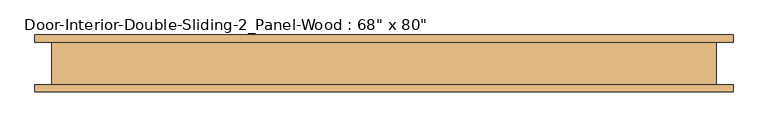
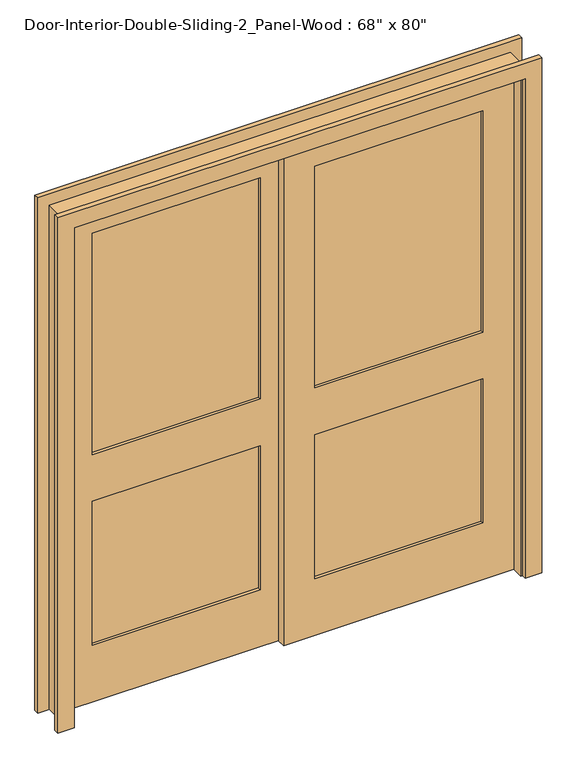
"""IFC4 building model written with IfcOpenShell, lengths in millimetres: door geometry."""

import ifcopenshell
import ifcopenshell.guid

model = None  # the IFC model being written
_history = None  # IfcOwnerHistory: only IFC2X3 demands one
_inside = {}  # id of a spatial element -> (the spatial element, [elements in it])
_under = {}  # id of a project, library or spatial element -> (it, [spatial elements below it])
_declared = {}  # id of a project -> (the project, [libraries it declares])
_typed = {}  # id of a type object -> (the type object, [elements of that type])
_made_of = {}  # id of a material, layer set ... -> (it, [elements and type objects made of it])


def new_model(schema):
    """Start an empty IFC model of exactly this schema.

    Asked for "IFC4X3", IfcOpenShell would pick the latest addendum, in which some entities
    have other attributes; the version numbers below select the first issue.
    IFC2X3 requires an IfcOwnerHistory on every rooted entity: one is made here for all.
    """
    global model, _history
    if schema == "IFC4X3":
        model = ifcopenshell.file(schema_version=(4, 3, 0, 0))
    else:
        model = ifcopenshell.file(schema=schema)
    _inside.clear()
    _under.clear()
    _declared.clear()
    _typed.clear()
    _made_of.clear()
    _history = None
    if model.schema == "IFC2X3":
        org = make("IfcOrganization", Name="unknown")
        user = make(
            "IfcPersonAndOrganization",
            ThePerson=make("IfcPerson", FamilyName="unknown"),
            TheOrganization=org,
        )
        app = make(
            "IfcApplication",
            ApplicationDeveloper=org,
            Version="unknown",
            ApplicationFullName="unknown",
            ApplicationIdentifier="unknown",
        )
        _history = make(
            "IfcOwnerHistory",
            OwningUser=user,
            OwningApplication=app,
            ChangeAction="ADDED",
            CreationDate=0,
        )
    return model


def make(cls, **values):
    """One entity of the class cls with the attributes given. An attribute that is None is left unset."""
    return model.create_entity(
        cls, **{name: value for name, value in values.items() if value is not None}
    )


def rooted(cls, **values):
    """An entity with a GlobalId (a new one), such as an element, a storey or a relation."""
    return make(cls, GlobalId=ifcopenshell.guid.new(), OwnerHistory=_history, **values)


def si_unit(unit_type, name, prefix=None):
    """IfcSIUnit, for example si_unit("LENGTHUNIT", "METRE", prefix="MILLI")."""
    return make("IfcSIUnit", UnitType=unit_type, Prefix=prefix, Name=name)


def assignment(units):
    """IfcUnitAssignment: the units of a project."""
    return None if units is None else make("IfcUnitAssignment", Units=units)


def point(xyz):
    """IfcCartesianPoint."""
    return None if xyz is None else make("IfcCartesianPoint", Coordinates=xyz)


def direction(xyz):
    """IfcDirection."""
    return None if xyz is None else make("IfcDirection", DirectionRatios=xyz)


def frame(location, z_axis=None, x_axis=None):
    """IfcAxis2Placement3D, a coordinate frame: its origin and axes. An axis left out is left unset."""
    return make(
        "IfcAxis2Placement3D",
        Location=point(location),
        Axis=direction(z_axis),
        RefDirection=direction(x_axis),
    )


def origin():
    """The frame at (0, 0, 0) with its axes left unset."""
    return frame((0.0, 0.0, 0.0))


def place(relative_to, where):
    """IfcLocalPlacement: puts the frame where relative to a parent placement (None: the world)."""
    return make(
        "IfcLocalPlacement", PlacementRelTo=relative_to, RelativePlacement=where
    )


def context(
    kind, dimensions, precision=None, world=None, true_north=None, identifier=None
):
    """IfcGeometricRepresentationContext, for example the 3D "Model" context."""
    return make(
        "IfcGeometricRepresentationContext",
        ContextIdentifier=identifier,
        ContextType=kind,
        CoordinateSpaceDimension=dimensions,
        Precision=precision,
        WorldCoordinateSystem=world,
        TrueNorth=true_north,
    )


def project(units=None, contexts=None):
    """IfcProject with its units and contexts."""
    return rooted(
        "IfcProject",
        Name="project",
        RepresentationContexts=contexts,
        UnitsInContext=assignment(units),
    )


def spatial(cls, under=None, at=None, **own):
    """A site, building, storey or space (cls), placed at a placement, below another one or the project."""
    s = rooted(cls, ObjectPlacement=at, **own)
    if under is not None:
        _under.setdefault(under.id(), (under, []))[1].append(s)
    return s


def polyline(points):
    """IfcPolyline through the points."""
    return make("IfcPolyline", Points=[point(p) for p in points])


def outline(outer, holes=None, kind="AREA"):
    """IfcArbitraryClosedProfileDef: a profile drawn as a closed curve; with holes, ...WithVoids."""
    if holes is None:
        return make("IfcArbitraryClosedProfileDef", ProfileType=kind, OuterCurve=outer)
    return make(
        "IfcArbitraryProfileDefWithVoids",
        ProfileType=kind,
        OuterCurve=outer,
        InnerCurves=holes,
    )


def extrude(swept, where, along, depth):
    """IfcExtrudedAreaSolid: the profile swept, set in the frame where, extruded along a direction by depth."""
    return make(
        "IfcExtrudedAreaSolid",
        SweptArea=swept,
        Position=where,
        ExtrudedDirection=direction(along),
        Depth=depth,
    )


def shape(context_of_items, identifier, shape_type, items):
    """IfcShapeRepresentation: the items that make up one representation, for example the "Body"."""
    return make(
        "IfcShapeRepresentation",
        ContextOfItems=context_of_items,
        RepresentationIdentifier=identifier,
        RepresentationType=shape_type,
        Items=items,
    )


def source(mapping_origin, context_of_items, identifier, shape_type, items):
    """IfcRepresentationMap: a shape defined once, which mapped items show again and again."""
    return make(
        "IfcRepresentationMap",
        MappingOrigin=mapping_origin,
        MappedRepresentation=shape(context_of_items, identifier, shape_type, items),
    )


def transform(
    local_origin,
    x_axis=None,
    y_axis=None,
    z_axis=None,
    scale=None,
    scale2=None,
    scale3=None,
    uniform=True,
):
    """IfcCartesianTransformationOperator3D, or its non-uniform kind. x_axis, y_axis, z_axis: its Axis1, 2, 3."""
    if uniform:
        return make(
            "IfcCartesianTransformationOperator3D",
            Axis1=direction(x_axis),
            Axis2=direction(y_axis),
            LocalOrigin=point(local_origin),
            Scale=scale,
            Axis3=direction(z_axis),
        )
    return make(
        "IfcCartesianTransformationOperator3DnonUniform",
        Axis1=direction(x_axis),
        Axis2=direction(y_axis),
        LocalOrigin=point(local_origin),
        Scale=scale,
        Axis3=direction(z_axis),
        Scale2=scale2,
        Scale3=scale3,
    )


def mapped(mapping_source, mapping_target):
    """IfcMappedItem: shows the shape of a source again, moved by a transform."""
    return make(
        "IfcMappedItem", MappingSource=mapping_source, MappingTarget=mapping_target
    )


def made_of(thing, what):
    """Note that an element or type object is made of a material, layer set ...; save() writes the relation."""
    if what is not None:
        _made_of.setdefault(what.id(), (what, []))[1].append(thing)
    return thing


def element(
    cls,
    number,
    at=None,
    inside=None,
    cuts=None,
    type_object=None,
    material=None,
    context=None,
    identifier="Body",
    shape_type=None,
    held_by="IfcProductDefinitionShape",
    body=None,
    shapes=None,
    **own,
):
    """One element of the class cls, such as IfcWall. Its Tag is "e" and its number.

    at: its placement. inside: the storey or other place that contains it. cuts: it is an
    opening in that element (IfcRelVoidsElement). A single representation is given by context,
    identifier, shape_type and body (its items); several are given by shapes. held_by: the class
    of the entity that holds the representations. save() writes the other relations.
    """
    e = rooted(cls, Tag="e%d" % number, ObjectPlacement=at, **own)
    if body is not None:
        shapes = [shape(context, identifier, shape_type, body)]
    if shapes is not None:
        e.Representation = make(held_by, Representations=shapes)
    if inside is not None:
        _inside.setdefault(inside.id(), (inside, []))[1].append(e)
    if cuts is not None:
        rooted(
            "IfcRelVoidsElement", RelatingBuildingElement=cuts, RelatedOpeningElement=e
        )
    if type_object is not None:
        _typed.setdefault(type_object.id(), (type_object, []))[1].append(e)
    return made_of(e, material)


def aggregate(whole, parts):
    """IfcRelAggregates: a whole, such as a stair, and the parts it consists of."""
    return rooted("IfcRelAggregates", RelatingObject=whole, RelatedObjects=parts)


def save(model, path):
    """Write the relations noted so far, then the file.

    IfcRelAggregates (storeys below a building ...), IfcRelContainedInSpatialStructure (elements
    in a storey), IfcRelDefinesByType, IfcRelAssociatesMaterial and IfcRelDeclares: one each for
    every whole, place, type object, material and project.
    """
    for whole, parts in _under.values():
        aggregate(whole, parts)
    for where, things in _inside.values():
        rooted(
            "IfcRelContainedInSpatialStructure",
            RelatedElements=things,
            RelatingStructure=where,
        )
    for kind, things in _typed.values():
        rooted("IfcRelDefinesByType", RelatedObjects=things, RelatingType=kind)
    for what, things in _made_of.values():
        rooted("IfcRelAssociatesMaterial", RelatedObjects=things, RelatingMaterial=what)
    for by, libraries in _declared.values():
        rooted("IfcRelDeclares", RelatingContext=by, RelatedDefinitions=libraries)
    model.write(path)


def door_2e073e5e(model_context):
    return source(origin(), model_context, "Body", "SweptSolid", [
        extrude(outline(polyline([(742.95, -4.2333333), (95.25, -4.2333333), (95.25, 7.4083333), (742.95, 7.4083333), (742.95, -4.2333333)])), frame((0.0, 0.0, 1009.65), z_axis=(0.0, 0.0, 1.0), x_axis=(1.0, 0.0, 0.0)), (0.0, 0.0, 1.0), 903.2875),
        extrude(outline(polyline([(742.95, -4.2333333), (95.25, -4.2333333), (95.25, 7.4083333), (742.95, 7.4083333), (742.95, -4.2333333)])), frame((0.0, 0.0, 231.775), z_axis=(0.0, 0.0, 1.0), x_axis=(1.0, 0.0, 0.0)), (0.0, 0.0, 1.0), 587.375),
        extrude(outline(polyline([(2032.0, -25.4), (0.0, -25.4), (0.0, 863.6), (2032.0, 863.6), (2032.0, -25.4)]), holes=[polyline([(1912.9375, 95.25), (1912.9375, 742.95), (1009.65, 742.95), (1009.65, 95.25), (1912.9375, 95.25)]), polyline([(819.15, 95.25), (819.15, 742.95), (231.775, 742.95), (231.775, 95.25), (819.15, 95.25)])]), frame((0.0, -15.875, 0.0), z_axis=(0.0, 1.0, 0.0), x_axis=(0.0, 0.0, 1.0)), (0.0, 0.0, 1.0), 34.925),
        extrude(outline(polyline([(-95.25, 30.6916667), (-742.95, 30.6916667), (-742.95, 42.3333333), (-95.25, 42.3333333), (-95.25, 30.6916667)])), frame((0.0, 0.0, 1009.65), z_axis=(0.0, 0.0, 1.0), x_axis=(1.0, 0.0, 0.0)), (0.0, 0.0, 1.0), 903.2875),
        extrude(outline(polyline([(-95.25, 30.6916667), (-742.95, 30.6916667), (-742.95, 42.3333333), (-95.25, 42.3333333), (-95.25, 30.6916667)])), frame((0.0, 0.0, 231.775), z_axis=(0.0, 0.0, 1.0), x_axis=(1.0, 0.0, 0.0)), (0.0, 0.0, 1.0), 587.375),
        extrude(outline(polyline([(2032.0, -863.6), (0.0, -863.6), (0.0, 25.4), (2032.0, 25.4), (2032.0, -863.6)]), holes=[polyline([(1912.9375, -742.95), (1912.9375, -95.25), (1009.65, -95.25), (1009.65, -742.95), (1912.9375, -742.95)]), polyline([(819.15, -742.95), (819.15, -95.25), (231.775, -95.25), (231.775, -742.95), (819.15, -742.95)])]), frame((0.0, 19.05, 0.0), z_axis=(0.0, 1.0, 0.0), x_axis=(0.0, 0.0, 1.0)), (0.0, 0.0, 1.0), 34.925),
        extrude(outline(polyline([(0.0, 863.6), (0.0, 889.0), (2057.4, 889.0), (2057.4, -889.0), (0.0, -889.0), (0.0, -863.6), (2032.0, -863.6), (2032.0, 863.6), (0.0, 863.6)])), frame((0.0, -60.325, 0.0), z_axis=(0.0, 1.0, 0.0), x_axis=(0.0, 0.0, 1.0)), (0.0, 0.0, 1.0), 114.3),
        extrude(outline(polyline([(0.0, 869.95), (0.0, 933.45), (2101.85, 933.45), (2101.85, -933.45), (0.0, -933.45), (0.0, -869.95), (2038.35, -869.95), (2038.35, 869.95), (0.0, 869.95)])), frame((0.0, -79.375, 0.0), z_axis=(0.0, 1.0, 0.0), x_axis=(0.0, 0.0, 1.0)), (0.0, 0.0, 1.0), 19.05),
        extrude(outline(polyline([(0.0, 869.95), (0.0, 933.45), (2101.85, 933.45), (2101.85, -933.45), (0.0, -933.45), (0.0, -869.95), (2038.35, -869.95), (2038.35, 869.95), (0.0, 869.95)])), frame((0.0, 53.975, 0.0), z_axis=(0.0, 1.0, 0.0), x_axis=(0.0, 0.0, 1.0)), (0.0, 0.0, 1.0), 19.05),
    ])


if __name__ == "__main__":
    model = new_model("IFC4")
    model_context = context("Model", 3, world=origin())
    ifc_project = project(units=[si_unit("LENGTHUNIT", "METRE", prefix="MILLI")], contexts=[model_context])
    site = spatial("IfcSite", under=ifc_project)
    building = spatial("IfcBuilding", under=site)
    placement = place(None, origin())
    door_shape = door_2e073e5e(model_context)
    element("IfcDoor", 1, ObjectType="Door-Interior-Double-Sliding-2_Panel-Wood : 68\" x 80\"", at=placement, inside=building, context=model_context, shape_type="MappedRepresentation", body=[
        mapped(door_shape, transform((0.0, 0.0, 0.0), x_axis=(1.0, 0.0, 0.0), y_axis=(0.0, 1.0, 0.0), z_axis=(0.0, 0.0, 1.0))),
    ])
    save(model, "model.ifc")
